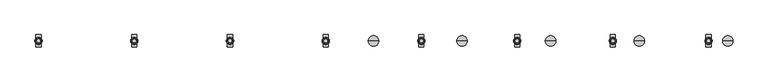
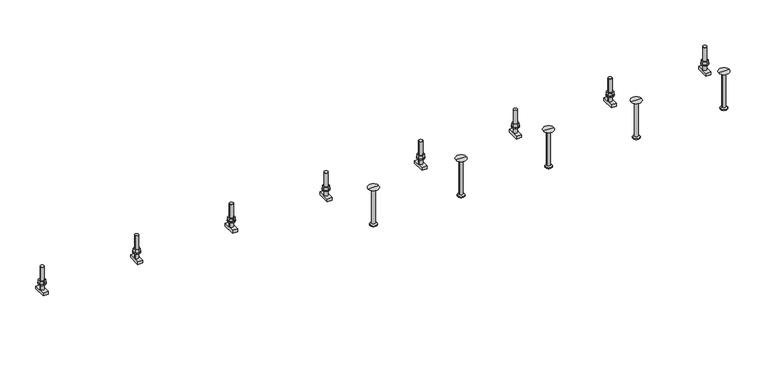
"""IFC4 building model written with IfcOpenShell, lengths in millimetres: fastener geometry, JTA-K JORDAHL® AnchorChannels : JTA-K L=3000 mm."""

from ifc_helpers import new_model, si_unit, point, frame, frame_2d, origin, place, context, project, spatial, polyline, circle_curve, trimmed, segment, composite_curve, outline, extrude, source, transform, mapped, element, save
from ifc_brep_helpers import plane_surface, cylinder_surface, revolved_surface, advanced_brep


def fastener_8fff43ae(model_context):
    return source(origin(), model_context, "Body", "SolidModel", [
        extrude(outline(polyline([(2608.3333333, -10.3923048), (2599.3333333, -5.1961524), (2599.3333333, 5.1961524), (2608.3333333, 10.3923048), (2617.3333333, 5.1961524), (2617.3333333, -5.1961524), (2608.3333333, -10.3923048)]), holes=[composite_curve([segment(trimmed(circle_curve(frame_2d((2608.3333333, 0.0)), 6.0), [point((2602.3333333, 0.0))], [point((2614.3333333, 0.0))], True, "CARTESIAN"), True, "CONTINUOUS"), segment(trimmed(circle_curve(frame_2d((2608.3333333, 0.0)), 6.0), [point((2614.3333333, 0.0))], [point((2602.3333333, 0.0))], True, "CARTESIAN"), True, "CONTINUOUS")], self_intersect=False)]), frame((0.0, 0.0, 17.5), z_axis=(0.0, 0.0, 1.0), x_axis=(1.0, 0.0, 0.0)), (0.0, 0.0, 1.0), 10.8),
        extrude(outline(composite_curve([segment(trimmed(circle_curve(frame_2d((2608.3333333, 0.0)), 12.0), [point((2596.3333333, 0.0))], [point((2620.3333333, 0.0))], False, "CARTESIAN"), True, "CONTINUOUS"), segment(trimmed(circle_curve(frame_2d((2608.3333333, 0.0)), 12.0), [point((2620.3333333, 0.0))], [point((2596.3333333, 0.0))], False, "CARTESIAN"), True, "CONTINUOUS")], self_intersect=False), holes=[composite_curve([segment(trimmed(circle_curve(frame_2d((2608.3333333, 0.0)), 6.5), [point((2601.8333333, 0.0))], [point((2614.8333333, 0.0))], True, "CARTESIAN"), True, "CONTINUOUS"), segment(trimmed(circle_curve(frame_2d((2608.3333333, 0.0)), 6.5), [point((2614.8333333, 0.0))], [point((2601.8333333, 0.0))], True, "CARTESIAN"), True, "CONTINUOUS")], self_intersect=False)]), frame((0.0, 0.0, 15.0), z_axis=(0.0, 0.0, 1.0), x_axis=(1.0, 0.0, 0.0)), (0.0, 0.0, 1.0), 2.5),
        extrude(outline(polyline([(2291.6666667, -10.3923048), (2282.6666667, -5.1961524), (2282.6666667, 5.1961524), (2291.6666667, 10.3923048), (2300.6666667, 5.1961524), (2300.6666667, -5.1961524), (2291.6666667, -10.3923048)]), holes=[composite_curve([segment(trimmed(circle_curve(frame_2d((2291.6666667, 0.0)), 6.0), [point((2285.6666667, 0.0))], [point((2297.6666667, 0.0))], True, "CARTESIAN"), True, "CONTINUOUS"), segment(trimmed(circle_curve(frame_2d((2291.6666667, 0.0)), 6.0), [point((2297.6666667, 0.0))], [point((2285.6666667, 0.0))], True, "CARTESIAN"), True, "CONTINUOUS")], self_intersect=False)]), frame((0.0, 0.0, 17.5), z_axis=(0.0, 0.0, 1.0), x_axis=(1.0, 0.0, 0.0)), (0.0, 0.0, 1.0), 10.8),
        extrude(outline(composite_curve([segment(trimmed(circle_curve(frame_2d((2291.6666667, 0.0)), 12.0), [point((2279.6666667, 0.0))], [point((2303.6666667, 0.0))], False, "CARTESIAN"), True, "CONTINUOUS"), segment(trimmed(circle_curve(frame_2d((2291.6666667, 0.0)), 12.0), [point((2303.6666667, 0.0))], [point((2279.6666667, 0.0))], False, "CARTESIAN"), True, "CONTINUOUS")], self_intersect=False), holes=[composite_curve([segment(trimmed(circle_curve(frame_2d((2291.6666667, 0.0)), 6.5), [point((2285.1666667, 0.0))], [point((2298.1666667, 0.0))], True, "CARTESIAN"), True, "CONTINUOUS"), segment(trimmed(circle_curve(frame_2d((2291.6666667, 0.0)), 6.5), [point((2298.1666667, 0.0))], [point((2285.1666667, 0.0))], True, "CARTESIAN"), True, "CONTINUOUS")], self_intersect=False)]), frame((0.0, 0.0, 15.0), z_axis=(0.0, 0.0, 1.0), x_axis=(1.0, 0.0, 0.0)), (0.0, 0.0, 1.0), 2.5),
        extrude(outline(polyline([(1975.0, -10.3923048), (1966.0, -5.1961524), (1966.0, 5.1961524), (1975.0, 10.3923048), (1984.0, 5.1961524), (1984.0, -5.1961524), (1975.0, -10.3923048)]), holes=[composite_curve([segment(trimmed(circle_curve(frame_2d((1975.0, 0.0)), 6.0), [point((1969.0, 0.0))], [point((1981.0, 0.0))], True, "CARTESIAN"), True, "CONTINUOUS"), segment(trimmed(circle_curve(frame_2d((1975.0, 0.0)), 6.0), [point((1981.0, 0.0))], [point((1969.0, 0.0))], True, "CARTESIAN"), True, "CONTINUOUS")], self_intersect=False)]), frame((0.0, 0.0, 17.5), z_axis=(0.0, 0.0, 1.0), x_axis=(1.0, 0.0, 0.0)), (0.0, 0.0, 1.0), 10.8),
        extrude(outline(composite_curve([segment(trimmed(circle_curve(frame_2d((1975.0, 0.0)), 12.0), [point((1963.0, 0.0))], [point((1987.0, 0.0))], False, "CARTESIAN"), True, "CONTINUOUS"), segment(trimmed(circle_curve(frame_2d((1975.0, 0.0)), 12.0), [point((1987.0, 0.0))], [point((1963.0, 0.0))], False, "CARTESIAN"), True, "CONTINUOUS")], self_intersect=False), holes=[composite_curve([segment(trimmed(circle_curve(frame_2d((1975.0, 0.0)), 6.5), [point((1968.5, 0.0))], [point((1981.5, 0.0))], True, "CARTESIAN"), True, "CONTINUOUS"), segment(trimmed(circle_curve(frame_2d((1975.0, 0.0)), 6.5), [point((1981.5, 0.0))], [point((1968.5, 0.0))], True, "CARTESIAN"), True, "CONTINUOUS")], self_intersect=False)]), frame((0.0, 0.0, 15.0), z_axis=(0.0, 0.0, 1.0), x_axis=(1.0, 0.0, 0.0)), (0.0, 0.0, 1.0), 2.5),
        extrude(outline(polyline([(1658.3333333, -10.3923048), (1649.3333333, -5.1961524), (1649.3333333, 5.1961524), (1658.3333333, 10.3923048), (1667.3333333, 5.1961524), (1667.3333333, -5.1961524), (1658.3333333, -10.3923048)]), holes=[composite_curve([segment(trimmed(circle_curve(frame_2d((1658.3333333, 0.0)), 6.0), [point((1652.3333333, 0.0))], [point((1664.3333333, 0.0))], True, "CARTESIAN"), True, "CONTINUOUS"), segment(trimmed(circle_curve(frame_2d((1658.3333333, 0.0)), 6.0), [point((1664.3333333, 0.0))], [point((1652.3333333, 0.0))], True, "CARTESIAN"), True, "CONTINUOUS")], self_intersect=False)]), frame((0.0, 0.0, 17.5), z_axis=(0.0, 0.0, 1.0), x_axis=(1.0, 0.0, 0.0)), (0.0, 0.0, 1.0), 10.8),
        extrude(outline(composite_curve([segment(trimmed(circle_curve(frame_2d((1658.3333333, 0.0)), 12.0), [point((1646.3333333, 0.0))], [point((1670.3333333, 0.0))], False, "CARTESIAN"), True, "CONTINUOUS"), segment(trimmed(circle_curve(frame_2d((1658.3333333, 0.0)), 12.0), [point((1670.3333333, 0.0))], [point((1646.3333333, 0.0))], False, "CARTESIAN"), True, "CONTINUOUS")], self_intersect=False), holes=[composite_curve([segment(trimmed(circle_curve(frame_2d((1658.3333333, 0.0)), 6.5), [point((1651.8333333, 0.0))], [point((1664.8333333, 0.0))], True, "CARTESIAN"), True, "CONTINUOUS"), segment(trimmed(circle_curve(frame_2d((1658.3333333, 0.0)), 6.5), [point((1664.8333333, 0.0))], [point((1651.8333333, 0.0))], True, "CARTESIAN"), True, "CONTINUOUS")], self_intersect=False)]), frame((0.0, 0.0, 15.0), z_axis=(0.0, 0.0, 1.0), x_axis=(1.0, 0.0, 0.0)), (0.0, 0.0, 1.0), 2.5),
        extrude(outline(polyline([(1341.6666667, -10.3923048), (1332.6666667, -5.1961524), (1332.6666667, 5.1961524), (1341.6666667, 10.3923048), (1350.6666667, 5.1961524), (1350.6666667, -5.1961524), (1341.6666667, -10.3923048)]), holes=[composite_curve([segment(trimmed(circle_curve(frame_2d((1341.6666667, 0.0)), 6.0), [point((1335.6666667, 0.0))], [point((1347.6666667, 0.0))], True, "CARTESIAN"), True, "CONTINUOUS"), segment(trimmed(circle_curve(frame_2d((1341.6666667, 0.0)), 6.0), [point((1347.6666667, 0.0))], [point((1335.6666667, 0.0))], True, "CARTESIAN"), True, "CONTINUOUS")], self_intersect=False)]), frame((0.0, 0.0, 17.5), z_axis=(0.0, 0.0, 1.0), x_axis=(1.0, 0.0, 0.0)), (0.0, 0.0, 1.0), 10.8),
        extrude(outline(composite_curve([segment(trimmed(circle_curve(frame_2d((1341.6666667, 0.0)), 12.0), [point((1329.6666667, 0.0))], [point((1353.6666667, 0.0))], False, "CARTESIAN"), True, "CONTINUOUS"), segment(trimmed(circle_curve(frame_2d((1341.6666667, 0.0)), 12.0), [point((1353.6666667, 0.0))], [point((1329.6666667, 0.0))], False, "CARTESIAN"), True, "CONTINUOUS")], self_intersect=False), holes=[composite_curve([segment(trimmed(circle_curve(frame_2d((1341.6666667, 0.0)), 6.5), [point((1335.1666667, 0.0))], [point((1348.1666667, 0.0))], True, "CARTESIAN"), True, "CONTINUOUS"), segment(trimmed(circle_curve(frame_2d((1341.6666667, 0.0)), 6.5), [point((1348.1666667, 0.0))], [point((1335.1666667, 0.0))], True, "CARTESIAN"), True, "CONTINUOUS")], self_intersect=False)]), frame((0.0, 0.0, 15.0), z_axis=(0.0, 0.0, 1.0), x_axis=(1.0, 0.0, 0.0)), (0.0, 0.0, 1.0), 2.5),
        extrude(outline(polyline([(1025.0, -10.3923048), (1016.0, -5.1961524), (1016.0, 5.1961524), (1025.0, 10.3923048), (1034.0, 5.1961524), (1034.0, -5.1961524), (1025.0, -10.3923048)]), holes=[composite_curve([segment(trimmed(circle_curve(frame_2d((1025.0, 0.0)), 6.0), [point((1019.0, 0.0))], [point((1031.0, 0.0))], True, "CARTESIAN"), True, "CONTINUOUS"), segment(trimmed(circle_curve(frame_2d((1025.0, 0.0)), 6.0), [point((1031.0, 0.0))], [point((1019.0, 0.0))], True, "CARTESIAN"), True, "CONTINUOUS")], self_intersect=False)]), frame((0.0, 0.0, 17.5), z_axis=(0.0, 0.0, 1.0), x_axis=(1.0, 0.0, 0.0)), (0.0, 0.0, 1.0), 10.8),
        extrude(outline(composite_curve([segment(trimmed(circle_curve(frame_2d((1025.0, 0.0)), 12.0), [point((1013.0, 0.0))], [point((1037.0, 0.0))], False, "CARTESIAN"), True, "CONTINUOUS"), segment(trimmed(circle_curve(frame_2d((1025.0, 0.0)), 12.0), [point((1037.0, 0.0))], [point((1013.0, 0.0))], False, "CARTESIAN"), True, "CONTINUOUS")], self_intersect=False), holes=[composite_curve([segment(trimmed(circle_curve(frame_2d((1025.0, 0.0)), 6.5), [point((1018.5, 0.0))], [point((1031.5, 0.0))], True, "CARTESIAN"), True, "CONTINUOUS"), segment(trimmed(circle_curve(frame_2d((1025.0, 0.0)), 6.5), [point((1031.5, 0.0))], [point((1018.5, 0.0))], True, "CARTESIAN"), True, "CONTINUOUS")], self_intersect=False)]), frame((0.0, 0.0, 15.0), z_axis=(0.0, 0.0, 1.0), x_axis=(1.0, 0.0, 0.0)), (0.0, 0.0, 1.0), 2.5),
        extrude(outline(polyline([(708.3333333, -10.3923048), (699.3333333, -5.1961524), (699.3333333, 5.1961524), (708.3333333, 10.3923048), (717.3333333, 5.1961524), (717.3333333, -5.1961524), (708.3333333, -10.3923048)]), holes=[composite_curve([segment(trimmed(circle_curve(frame_2d((708.3333333, 0.0)), 6.0), [point((702.3333333, 0.0))], [point((714.3333333, 0.0))], True, "CARTESIAN"), True, "CONTINUOUS"), segment(trimmed(circle_curve(frame_2d((708.3333333, 0.0)), 6.0), [point((714.3333333, 0.0))], [point((702.3333333, 0.0))], True, "CARTESIAN"), True, "CONTINUOUS")], self_intersect=False)]), frame((0.0, 0.0, 17.5), z_axis=(0.0, 0.0, 1.0), x_axis=(1.0, 0.0, 0.0)), (0.0, 0.0, 1.0), 10.8),
        extrude(outline(composite_curve([segment(trimmed(circle_curve(frame_2d((708.3333333, 0.0)), 12.0), [point((696.3333333, 0.0))], [point((720.3333333, 0.0))], False, "CARTESIAN"), True, "CONTINUOUS"), segment(trimmed(circle_curve(frame_2d((708.3333333, 0.0)), 12.0), [point((720.3333333, 0.0))], [point((696.3333333, 0.0))], False, "CARTESIAN"), True, "CONTINUOUS")], self_intersect=False), holes=[composite_curve([segment(trimmed(circle_curve(frame_2d((708.3333333, 0.0)), 6.5), [point((701.8333333, 0.0))], [point((714.8333333, 0.0))], True, "CARTESIAN"), True, "CONTINUOUS"), segment(trimmed(circle_curve(frame_2d((708.3333333, 0.0)), 6.5), [point((714.8333333, 0.0))], [point((701.8333333, 0.0))], True, "CARTESIAN"), True, "CONTINUOUS")], self_intersect=False)]), frame((0.0, 0.0, 15.0), z_axis=(0.0, 0.0, 1.0), x_axis=(1.0, 0.0, 0.0)), (0.0, 0.0, 1.0), 2.5),
        extrude(outline(polyline([(391.6666667, -10.3923048), (382.6666667, -5.1961524), (382.6666667, 5.1961524), (391.6666667, 10.3923048), (400.6666667, 5.1961524), (400.6666667, -5.1961524), (391.6666667, -10.3923048)]), holes=[composite_curve([segment(trimmed(circle_curve(frame_2d((391.6666667, 0.0)), 6.0), [point((385.6666667, 0.0))], [point((397.6666667, 0.0))], True, "CARTESIAN"), True, "CONTINUOUS"), segment(trimmed(circle_curve(frame_2d((391.6666667, 0.0)), 6.0), [point((397.6666667, 0.0))], [point((385.6666667, 0.0))], True, "CARTESIAN"), True, "CONTINUOUS")], self_intersect=False)]), frame((0.0, 0.0, 17.5), z_axis=(0.0, 0.0, 1.0), x_axis=(1.0, 0.0, 0.0)), (0.0, 0.0, 1.0), 10.8),
        extrude(outline(composite_curve([segment(trimmed(circle_curve(frame_2d((391.6666667, 0.0)), 12.0), [point((379.6666667, 0.0))], [point((403.6666667, 0.0))], False, "CARTESIAN"), True, "CONTINUOUS"), segment(trimmed(circle_curve(frame_2d((391.6666667, 0.0)), 12.0), [point((403.6666667, 0.0))], [point((379.6666667, 0.0))], False, "CARTESIAN"), True, "CONTINUOUS")], self_intersect=False), holes=[composite_curve([segment(trimmed(circle_curve(frame_2d((391.6666667, 0.0)), 6.5), [point((385.1666667, 0.0))], [point((398.1666667, 0.0))], True, "CARTESIAN"), True, "CONTINUOUS"), segment(trimmed(circle_curve(frame_2d((391.6666667, 0.0)), 6.5), [point((398.1666667, 0.0))], [point((385.1666667, 0.0))], True, "CARTESIAN"), True, "CONTINUOUS")], self_intersect=False)]), frame((0.0, 0.0, 15.0), z_axis=(0.0, 0.0, 1.0), x_axis=(1.0, 0.0, 0.0)), (0.0, 0.0, 1.0), 2.5),
        advanced_brep(
        [(2616.8333333, -20.7, -4.5), (2616.8333333, -20.7, -14.5), (2616.8333333, 20.7, -14.5), (2616.8333333, 20.7, -4.5), (2599.8333333, -20.7, -4.5), (2599.8333333, 20.7, -4.5), (2599.8333333, 20.7, -14.5), (2599.8333333, -20.7, -14.5), (2614.3333333, 0.0, -4.5), (2602.3333333, 0.0, -4.5), (2602.3333333, 0.0, 75.5), (2614.3333333, 0.0, 75.5)],
        [
            (0, 1),
            (1, 2),
            (2, 3),
            (3, 0),
            (4, 5),
            (5, 6),
            (6, 7),
            (7, 4),
            (3, 5),
            (4, 0),
            (8, 9, circle_curve(frame((2608.3333333, 0.0, -4.5), z_axis=(0.0, 0.0, -1.0), x_axis=(1.0, 0.0, 0.0)), 6.0)),
            (9, 8, circle_curve(frame((2608.3333333, 0.0, -4.5), z_axis=(0.0, 0.0, -1.0), x_axis=(1.0, 0.0, 0.0)), 6.0)),
            (2, 6),
            (1, 7),
            (10, 11, circle_curve(frame((2608.3333333, 0.0, 75.5), z_axis=(0.0, 0.0, 1.0), x_axis=(1.0, 0.0, 0.0)), 6.0)),
            (11, 10, circle_curve(frame((2608.3333333, 0.0, 75.5), z_axis=(0.0, 0.0, 1.0), x_axis=(1.0, 0.0, 0.0)), 6.0)),
            (11, 8),
            (9, 10),
        ],
        [
            plane_surface(frame((2616.8333333, 20.7, -4.5), z_axis=(1.0, 0.0, 0.0), x_axis=(0.0, 1.0, 0.0))),
            plane_surface(frame((2599.8333333, 20.7, -4.5), z_axis=(-1.0, 0.0, 0.0), x_axis=(0.0, -1.0, 0.0))),
            plane_surface(frame((2616.8333333, -20.7, -4.5), z_axis=(0.0, 0.0, 1.0), x_axis=(-1.0, 0.0, 0.0))),
            plane_surface(frame((2616.8333333, 20.7, -4.5), z_axis=(0.0, 1.0, 0.0), x_axis=(-1.0, 0.0, 0.0))),
            plane_surface(frame((2616.8333333, 20.7, -14.5), z_axis=(0.0, 0.0, -1.0), x_axis=(-1.0, 0.0, 0.0))),
            plane_surface(frame((2616.8333333, -20.7, -14.5), z_axis=(0.0, -1.0, 0.0), x_axis=(-1.0, 0.0, 0.0))),
            plane_surface(frame((2614.3333333, 0.0, 75.5), z_axis=(0.0, 0.0, 1.0), x_axis=(0.0, -1.0, 0.0))),
            cylinder_surface(frame((2608.3333333, 0.0, -4.5), z_axis=(0.0, 0.0, 1.0), x_axis=(1.0, 0.0, 0.0)), 6.0),
        ],
        [
            (0, [[1, 2, 3, 4]]),
            (1, [[5, 6, 7, 8]]),
            (2, [[9, -5, 10, -4], [11, 12]]),
            (3, [[13, -6, -9, -3]]),
            (4, [[14, -7, -13, -2]]),
            (5, [[-10, -8, -14, -1]]),
            (6, [[15, 16]]),
            (7, [[17, -12, 18, -16]]),
            (7, [[-18, -11, -17, -15]]),
        ],
    ),
        advanced_brep(
        [(2300.1666667, -20.7, -4.5), (2300.1666667, -20.7, -14.5), (2300.1666667, 20.7, -14.5), (2300.1666667, 20.7, -4.5), (2283.1666667, -20.7, -4.5), (2283.1666667, 20.7, -4.5), (2283.1666667, 20.7, -14.5), (2283.1666667, -20.7, -14.5), (2297.6666667, 0.0, -4.5), (2285.6666667, 0.0, -4.5), (2285.6666667, 0.0, 75.5), (2297.6666667, 0.0, 75.5)],
        [
            (0, 1),
            (1, 2),
            (2, 3),
            (3, 0),
            (4, 5),
            (5, 6),
            (6, 7),
            (7, 4),
            (3, 5),
            (4, 0),
            (8, 9, circle_curve(frame((2291.6666667, 0.0, -4.5), z_axis=(0.0, 0.0, -1.0), x_axis=(1.0, 0.0, 0.0)), 6.0)),
            (9, 8, circle_curve(frame((2291.6666667, 0.0, -4.5), z_axis=(0.0, 0.0, -1.0), x_axis=(1.0, 0.0, 0.0)), 6.0)),
            (2, 6),
            (1, 7),
            (10, 11, circle_curve(frame((2291.6666667, 0.0, 75.5), z_axis=(0.0, 0.0, 1.0), x_axis=(1.0, 0.0, 0.0)), 6.0)),
            (11, 10, circle_curve(frame((2291.6666667, 0.0, 75.5), z_axis=(0.0, 0.0, 1.0), x_axis=(1.0, 0.0, 0.0)), 6.0)),
            (11, 8),
            (9, 10),
        ],
        [
            plane_surface(frame((2300.1666667, 20.7, -4.5), z_axis=(1.0, 0.0, 0.0), x_axis=(0.0, 1.0, 0.0))),
            plane_surface(frame((2283.1666667, 20.7, -4.5), z_axis=(-1.0, 0.0, 0.0), x_axis=(0.0, -1.0, 0.0))),
            plane_surface(frame((2300.1666667, -20.7, -4.5), z_axis=(0.0, 0.0, 1.0), x_axis=(-1.0, 0.0, 0.0))),
            plane_surface(frame((2300.1666667, 20.7, -4.5), z_axis=(0.0, 1.0, 0.0), x_axis=(-1.0, 0.0, 0.0))),
            plane_surface(frame((2300.1666667, 20.7, -14.5), z_axis=(0.0, 0.0, -1.0), x_axis=(-1.0, 0.0, 0.0))),
            plane_surface(frame((2300.1666667, -20.7, -14.5), z_axis=(0.0, -1.0, 0.0), x_axis=(-1.0, 0.0, 0.0))),
            plane_surface(frame((2297.6666667, 0.0, 75.5), z_axis=(0.0, 0.0, 1.0), x_axis=(0.0, -1.0, 0.0))),
            cylinder_surface(frame((2291.6666667, 0.0, -4.5), z_axis=(0.0, 0.0, 1.0), x_axis=(1.0, 0.0, 0.0)), 6.0),
        ],
        [
            (0, [[1, 2, 3, 4]]),
            (1, [[5, 6, 7, 8]]),
            (2, [[9, -5, 10, -4], [11, 12]]),
            (3, [[13, -6, -9, -3]]),
            (4, [[14, -7, -13, -2]]),
            (5, [[-10, -8, -14, -1]]),
            (6, [[15, 16]]),
            (7, [[17, -12, 18, -16]]),
            (7, [[-18, -11, -17, -15]]),
        ],
    ),
        advanced_brep(
        [(1983.5, -20.7, -4.5), (1983.5, -20.7, -14.5), (1983.5, 20.7, -14.5), (1983.5, 20.7, -4.5), (1966.5, -20.7, -4.5), (1966.5, 20.7, -4.5), (1966.5, 20.7, -14.5), (1966.5, -20.7, -14.5), (1981.0, 0.0, -4.5), (1969.0, 0.0, -4.5), (1969.0, 0.0, 75.5), (1981.0, 0.0, 75.5)],
        [
            (0, 1),
            (1, 2),
            (2, 3),
            (3, 0),
            (4, 5),
            (5, 6),
            (6, 7),
            (7, 4),
            (3, 5),
            (4, 0),
            (8, 9, circle_curve(frame((1975.0, 0.0, -4.5), z_axis=(0.0, 0.0, -1.0), x_axis=(1.0, 0.0, 0.0)), 6.0)),
            (9, 8, circle_curve(frame((1975.0, 0.0, -4.5), z_axis=(0.0, 0.0, -1.0), x_axis=(1.0, 0.0, 0.0)), 6.0)),
            (2, 6),
            (1, 7),
            (10, 11, circle_curve(frame((1975.0, 0.0, 75.5), z_axis=(0.0, 0.0, 1.0), x_axis=(1.0, 0.0, 0.0)), 6.0)),
            (11, 10, circle_curve(frame((1975.0, 0.0, 75.5), z_axis=(0.0, 0.0, 1.0), x_axis=(1.0, 0.0, 0.0)), 6.0)),
            (11, 8),
            (9, 10),
        ],
        [
            plane_surface(frame((1983.5, 20.7, -4.5), z_axis=(1.0, 0.0, 0.0), x_axis=(0.0, 1.0, 0.0))),
            plane_surface(frame((1966.5, 20.7, -4.5), z_axis=(-1.0, 0.0, 0.0), x_axis=(0.0, -1.0, 0.0))),
            plane_surface(frame((1983.5, -20.7, -4.5), z_axis=(0.0, 0.0, 1.0), x_axis=(-1.0, 0.0, 0.0))),
            plane_surface(frame((1983.5, 20.7, -4.5), z_axis=(0.0, 1.0, 0.0), x_axis=(-1.0, 0.0, 0.0))),
            plane_surface(frame((1983.5, 20.7, -14.5), z_axis=(0.0, 0.0, -1.0), x_axis=(-1.0, 0.0, 0.0))),
            plane_surface(frame((1983.5, -20.7, -14.5), z_axis=(0.0, -1.0, 0.0), x_axis=(-1.0, 0.0, 0.0))),
            plane_surface(frame((1981.0, 0.0, 75.5), z_axis=(0.0, 0.0, 1.0), x_axis=(0.0, -1.0, 0.0))),
            cylinder_surface(frame((1975.0, 0.0, -4.5), z_axis=(0.0, 0.0, 1.0), x_axis=(1.0, 0.0, 0.0)), 6.0),
        ],
        [
            (0, [[1, 2, 3, 4]]),
            (1, [[5, 6, 7, 8]]),
            (2, [[9, -5, 10, -4], [11, 12]]),
            (3, [[13, -6, -9, -3]]),
            (4, [[14, -7, -13, -2]]),
            (5, [[-10, -8, -14, -1]]),
            (6, [[15, 16]]),
            (7, [[17, -12, 18, -16]]),
            (7, [[-18, -11, -17, -15]]),
        ],
    ),
        advanced_brep(
        [(1666.8333333, -20.7, -4.5), (1666.8333333, -20.7, -14.5), (1666.8333333, 20.7, -14.5), (1666.8333333, 20.7, -4.5), (1649.8333333, -20.7, -4.5), (1649.8333333, 20.7, -4.5), (1649.8333333, 20.7, -14.5), (1649.8333333, -20.7, -14.5), (1664.3333333, 0.0, -4.5), (1652.3333333, 0.0, -4.5), (1652.3333333, 0.0, 75.5), (1664.3333333, 0.0, 75.5)],
        [
            (0, 1),
            (1, 2),
            (2, 3),
            (3, 0),
            (4, 5),
            (5, 6),
            (6, 7),
            (7, 4),
            (3, 5),
            (4, 0),
            (8, 9, circle_curve(frame((1658.3333333, 0.0, -4.5), z_axis=(0.0, 0.0, -1.0), x_axis=(1.0, 0.0, 0.0)), 6.0)),
            (9, 8, circle_curve(frame((1658.3333333, 0.0, -4.5), z_axis=(0.0, 0.0, -1.0), x_axis=(1.0, 0.0, 0.0)), 6.0)),
            (2, 6),
            (1, 7),
            (10, 11, circle_curve(frame((1658.3333333, 0.0, 75.5), z_axis=(0.0, 0.0, 1.0), x_axis=(1.0, 0.0, 0.0)), 6.0)),
            (11, 10, circle_curve(frame((1658.3333333, 0.0, 75.5), z_axis=(0.0, 0.0, 1.0), x_axis=(1.0, 0.0, 0.0)), 6.0)),
            (11, 8),
            (9, 10),
        ],
        [
            plane_surface(frame((1666.8333333, 20.7, -4.5), z_axis=(1.0, 0.0, 0.0), x_axis=(0.0, 1.0, 0.0))),
            plane_surface(frame((1649.8333333, 20.7, -4.5), z_axis=(-1.0, 0.0, 0.0), x_axis=(0.0, -1.0, 0.0))),
            plane_surface(frame((1666.8333333, -20.7, -4.5), z_axis=(0.0, 0.0, 1.0), x_axis=(-1.0, 0.0, 0.0))),
            plane_surface(frame((1666.8333333, 20.7, -4.5), z_axis=(0.0, 1.0, 0.0), x_axis=(-1.0, 0.0, 0.0))),
            plane_surface(frame((1666.8333333, 20.7, -14.5), z_axis=(0.0, 0.0, -1.0), x_axis=(-1.0, 0.0, 0.0))),
            plane_surface(frame((1666.8333333, -20.7, -14.5), z_axis=(0.0, -1.0, 0.0), x_axis=(-1.0, 0.0, 0.0))),
            plane_surface(frame((1664.3333333, 0.0, 75.5), z_axis=(0.0, 0.0, 1.0), x_axis=(0.0, -1.0, 0.0))),
            cylinder_surface(frame((1658.3333333, 0.0, -4.5), z_axis=(0.0, 0.0, 1.0), x_axis=(1.0, 0.0, 0.0)), 6.0),
        ],
        [
            (0, [[1, 2, 3, 4]]),
            (1, [[5, 6, 7, 8]]),
            (2, [[9, -5, 10, -4], [11, 12]]),
            (3, [[13, -6, -9, -3]]),
            (4, [[14, -7, -13, -2]]),
            (5, [[-10, -8, -14, -1]]),
            (6, [[15, 16]]),
            (7, [[17, -12, 18, -16]]),
            (7, [[-18, -11, -17, -15]]),
        ],
    ),
        advanced_brep(
        [(1350.1666667, -20.7, -4.5), (1350.1666667, -20.7, -14.5), (1350.1666667, 20.7, -14.5), (1350.1666667, 20.7, -4.5), (1333.1666667, -20.7, -4.5), (1333.1666667, 20.7, -4.5), (1333.1666667, 20.7, -14.5), (1333.1666667, -20.7, -14.5), (1347.6666667, 0.0, -4.5), (1335.6666667, 0.0, -4.5), (1335.6666667, 0.0, 75.5), (1347.6666667, 0.0, 75.5)],
        [
            (0, 1),
            (1, 2),
            (2, 3),
            (3, 0),
            (4, 5),
            (5, 6),
            (6, 7),
            (7, 4),
            (3, 5),
            (4, 0),
            (8, 9, circle_curve(frame((1341.6666667, 0.0, -4.5), z_axis=(0.0, 0.0, -1.0), x_axis=(1.0, 0.0, 0.0)), 6.0)),
            (9, 8, circle_curve(frame((1341.6666667, 0.0, -4.5), z_axis=(0.0, 0.0, -1.0), x_axis=(1.0, 0.0, 0.0)), 6.0)),
            (2, 6),
            (1, 7),
            (10, 11, circle_curve(frame((1341.6666667, 0.0, 75.5), z_axis=(0.0, 0.0, 1.0), x_axis=(1.0, 0.0, 0.0)), 6.0)),
            (11, 10, circle_curve(frame((1341.6666667, 0.0, 75.5), z_axis=(0.0, 0.0, 1.0), x_axis=(1.0, 0.0, 0.0)), 6.0)),
            (11, 8),
            (9, 10),
        ],
        [
            plane_surface(frame((1350.1666667, 20.7, -4.5), z_axis=(1.0, 0.0, 0.0), x_axis=(0.0, 1.0, 0.0))),
            plane_surface(frame((1333.1666667, 20.7, -4.5), z_axis=(-1.0, 0.0, 0.0), x_axis=(0.0, -1.0, 0.0))),
            plane_surface(frame((1350.1666667, -20.7, -4.5), z_axis=(0.0, 0.0, 1.0), x_axis=(-1.0, 0.0, 0.0))),
            plane_surface(frame((1350.1666667, 20.7, -4.5), z_axis=(0.0, 1.0, 0.0), x_axis=(-1.0, 0.0, 0.0))),
            plane_surface(frame((1350.1666667, 20.7, -14.5), z_axis=(0.0, 0.0, -1.0), x_axis=(-1.0, 0.0, 0.0))),
            plane_surface(frame((1350.1666667, -20.7, -14.5), z_axis=(0.0, -1.0, 0.0), x_axis=(-1.0, 0.0, 0.0))),
            plane_surface(frame((1347.6666667, 0.0, 75.5), z_axis=(0.0, 0.0, 1.0), x_axis=(0.0, -1.0, 0.0))),
            cylinder_surface(frame((1341.6666667, 0.0, -4.5), z_axis=(0.0, 0.0, 1.0), x_axis=(1.0, 0.0, 0.0)), 6.0),
        ],
        [
            (0, [[1, 2, 3, 4]]),
            (1, [[5, 6, 7, 8]]),
            (2, [[9, -5, 10, -4], [11, 12]]),
            (3, [[13, -6, -9, -3]]),
            (4, [[14, -7, -13, -2]]),
            (5, [[-10, -8, -14, -1]]),
            (6, [[15, 16]]),
            (7, [[17, -12, 18, -16]]),
            (7, [[-18, -11, -17, -15]]),
        ],
    ),
        advanced_brep(
        [(1033.5, -20.7, -4.5), (1033.5, -20.7, -14.5), (1033.5, 20.7, -14.5), (1033.5, 20.7, -4.5), (1016.5, -20.7, -4.5), (1016.5, 20.7, -4.5), (1016.5, 20.7, -14.5), (1016.5, -20.7, -14.5), (1031.0, 0.0, -4.5), (1019.0, 0.0, -4.5), (1019.0, 0.0, 75.5), (1031.0, 0.0, 75.5)],
        [
            (0, 1),
            (1, 2),
            (2, 3),
            (3, 0),
            (4, 5),
            (5, 6),
            (6, 7),
            (7, 4),
            (3, 5),
            (4, 0),
            (8, 9, circle_curve(frame((1025.0, 0.0, -4.5), z_axis=(0.0, 0.0, -1.0), x_axis=(1.0, 0.0, 0.0)), 6.0)),
            (9, 8, circle_curve(frame((1025.0, 0.0, -4.5), z_axis=(0.0, 0.0, -1.0), x_axis=(1.0, 0.0, 0.0)), 6.0)),
            (2, 6),
            (1, 7),
            (10, 11, circle_curve(frame((1025.0, 0.0, 75.5), z_axis=(0.0, 0.0, 1.0), x_axis=(1.0, 0.0, 0.0)), 6.0)),
            (11, 10, circle_curve(frame((1025.0, 0.0, 75.5), z_axis=(0.0, 0.0, 1.0), x_axis=(1.0, 0.0, 0.0)), 6.0)),
            (11, 8),
            (9, 10),
        ],
        [
            plane_surface(frame((1033.5, 20.7, -4.5), z_axis=(1.0, 0.0, 0.0), x_axis=(0.0, 1.0, 0.0))),
            plane_surface(frame((1016.5, 20.7, -4.5), z_axis=(-1.0, 0.0, 0.0), x_axis=(0.0, -1.0, 0.0))),
            plane_surface(frame((1033.5, -20.7, -4.5), z_axis=(0.0, 0.0, 1.0), x_axis=(-1.0, 0.0, 0.0))),
            plane_surface(frame((1033.5, 20.7, -4.5), z_axis=(0.0, 1.0, 0.0), x_axis=(-1.0, 0.0, 0.0))),
            plane_surface(frame((1033.5, 20.7, -14.5), z_axis=(0.0, 0.0, -1.0), x_axis=(-1.0, 0.0, 0.0))),
            plane_surface(frame((1033.5, -20.7, -14.5), z_axis=(0.0, -1.0, 0.0), x_axis=(-1.0, 0.0, 0.0))),
            plane_surface(frame((1031.0, 0.0, 75.5), z_axis=(0.0, 0.0, 1.0), x_axis=(0.0, -1.0, 0.0))),
            cylinder_surface(frame((1025.0, 0.0, -4.5), z_axis=(0.0, 0.0, 1.0), x_axis=(1.0, 0.0, 0.0)), 6.0),
        ],
        [
            (0, [[1, 2, 3, 4]]),
            (1, [[5, 6, 7, 8]]),
            (2, [[9, -5, 10, -4], [11, 12]]),
            (3, [[13, -6, -9, -3]]),
            (4, [[14, -7, -13, -2]]),
            (5, [[-10, -8, -14, -1]]),
            (6, [[15, 16]]),
            (7, [[17, -12, 18, -16]]),
            (7, [[-18, -11, -17, -15]]),
        ],
    ),
        advanced_brep(
        [(716.8333333, -20.7, -4.5), (716.8333333, -20.7, -14.5), (716.8333333, 20.7, -14.5), (716.8333333, 20.7, -4.5), (699.8333333, -20.7, -4.5), (699.8333333, 20.7, -4.5), (699.8333333, 20.7, -14.5), (699.8333333, -20.7, -14.5), (714.3333333, 0.0, -4.5), (702.3333333, 0.0, -4.5), (702.3333333, 0.0, 75.5), (714.3333333, 0.0, 75.5)],
        [
            (0, 1),
            (1, 2),
            (2, 3),
            (3, 0),
            (4, 5),
            (5, 6),
            (6, 7),
            (7, 4),
            (3, 5),
            (4, 0),
            (8, 9, circle_curve(frame((708.3333333, 0.0, -4.5), z_axis=(0.0, 0.0, -1.0), x_axis=(1.0, 0.0, 0.0)), 6.0)),
            (9, 8, circle_curve(frame((708.3333333, 0.0, -4.5), z_axis=(0.0, 0.0, -1.0), x_axis=(1.0, 0.0, 0.0)), 6.0)),
            (2, 6),
            (1, 7),
            (10, 11, circle_curve(frame((708.3333333, 0.0, 75.5), z_axis=(0.0, 0.0, 1.0), x_axis=(1.0, 0.0, 0.0)), 6.0)),
            (11, 10, circle_curve(frame((708.3333333, 0.0, 75.5), z_axis=(0.0, 0.0, 1.0), x_axis=(1.0, 0.0, 0.0)), 6.0)),
            (11, 8),
            (9, 10),
        ],
        [
            plane_surface(frame((716.8333333, 20.7, -4.5), z_axis=(1.0, 0.0, 0.0), x_axis=(0.0, 1.0, 0.0))),
            plane_surface(frame((699.8333333, 20.7, -4.5), z_axis=(-1.0, 0.0, 0.0), x_axis=(0.0, -1.0, 0.0))),
            plane_surface(frame((716.8333333, -20.7, -4.5), z_axis=(0.0, 0.0, 1.0), x_axis=(-1.0, 0.0, 0.0))),
            plane_surface(frame((716.8333333, 20.7, -4.5), z_axis=(0.0, 1.0, 0.0), x_axis=(-1.0, 0.0, 0.0))),
            plane_surface(frame((716.8333333, 20.7, -14.5), z_axis=(0.0, 0.0, -1.0), x_axis=(-1.0, 0.0, 0.0))),
            plane_surface(frame((716.8333333, -20.7, -14.5), z_axis=(0.0, -1.0, 0.0), x_axis=(-1.0, 0.0, 0.0))),
            plane_surface(frame((714.3333333, 0.0, 75.5), z_axis=(0.0, 0.0, 1.0), x_axis=(0.0, -1.0, 0.0))),
            cylinder_surface(frame((708.3333333, 0.0, -4.5), z_axis=(0.0, 0.0, 1.0), x_axis=(1.0, 0.0, 0.0)), 6.0),
        ],
        [
            (0, [[1, 2, 3, 4]]),
            (1, [[5, 6, 7, 8]]),
            (2, [[9, -5, 10, -4], [11, 12]]),
            (3, [[13, -6, -9, -3]]),
            (4, [[14, -7, -13, -2]]),
            (5, [[-10, -8, -14, -1]]),
            (6, [[15, 16]]),
            (7, [[17, -12, 18, -16]]),
            (7, [[-18, -11, -17, -15]]),
        ],
    ),
        advanced_brep(
        [(400.1666667, -20.7, -4.5), (400.1666667, -20.7, -14.5), (400.1666667, 20.7, -14.5), (400.1666667, 20.7, -4.5), (383.1666667, -20.7, -4.5), (383.1666667, 20.7, -4.5), (383.1666667, 20.7, -14.5), (383.1666667, -20.7, -14.5), (397.6666667, 0.0, -4.5), (385.6666667, 0.0, -4.5), (385.6666667, 0.0, 75.5), (397.6666667, 0.0, 75.5)],
        [
            (0, 1),
            (1, 2),
            (2, 3),
            (3, 0),
            (4, 5),
            (5, 6),
            (6, 7),
            (7, 4),
            (3, 5),
            (4, 0),
            (8, 9, circle_curve(frame((391.6666667, 0.0, -4.5), z_axis=(0.0, 0.0, -1.0), x_axis=(1.0, 0.0, 0.0)), 6.0)),
            (9, 8, circle_curve(frame((391.6666667, 0.0, -4.5), z_axis=(0.0, 0.0, -1.0), x_axis=(1.0, 0.0, 0.0)), 6.0)),
            (2, 6),
            (1, 7),
            (10, 11, circle_curve(frame((391.6666667, 0.0, 75.5), z_axis=(0.0, 0.0, 1.0), x_axis=(1.0, 0.0, 0.0)), 6.0)),
            (11, 10, circle_curve(frame((391.6666667, 0.0, 75.5), z_axis=(0.0, 0.0, 1.0), x_axis=(1.0, 0.0, 0.0)), 6.0)),
            (11, 8),
            (9, 10),
        ],
        [
            plane_surface(frame((400.1666667, 20.7, -4.5), z_axis=(1.0, 0.0, 0.0), x_axis=(0.0, 1.0, 0.0))),
            plane_surface(frame((383.1666667, 20.7, -4.5), z_axis=(-1.0, 0.0, 0.0), x_axis=(0.0, -1.0, 0.0))),
            plane_surface(frame((400.1666667, -20.7, -4.5), z_axis=(0.0, 0.0, 1.0), x_axis=(-1.0, 0.0, 0.0))),
            plane_surface(frame((400.1666667, 20.7, -4.5), z_axis=(0.0, 1.0, 0.0), x_axis=(-1.0, 0.0, 0.0))),
            plane_surface(frame((400.1666667, 20.7, -14.5), z_axis=(0.0, 0.0, -1.0), x_axis=(-1.0, 0.0, 0.0))),
            plane_surface(frame((400.1666667, -20.7, -14.5), z_axis=(0.0, -1.0, 0.0), x_axis=(-1.0, 0.0, 0.0))),
            plane_surface(frame((397.6666667, 0.0, 75.5), z_axis=(0.0, 0.0, 1.0), x_axis=(0.0, -1.0, 0.0))),
            cylinder_surface(frame((391.6666667, 0.0, -4.5), z_axis=(0.0, 0.0, 1.0), x_axis=(1.0, 0.0, 0.0)), 6.0),
        ],
        [
            (0, [[1, 2, 3, 4]]),
            (1, [[5, 6, 7, 8]]),
            (2, [[9, -5, 10, -4], [11, 12]]),
            (3, [[13, -6, -9, -3]]),
            (4, [[14, -7, -13, -2]]),
            (5, [[-10, -8, -14, -1]]),
            (6, [[15, 16]]),
            (7, [[17, -12, 18, -16]]),
            (7, [[-18, -11, -17, -15]]),
        ],
    ),
        advanced_brep(
        [(2672.0, 0.0, -34.0), (2654.5, 0.0, -34.0), (2689.5, 0.0, -34.0), (2660.5, 0.0, -165.0), (2672.0, 0.0, -165.0), (2683.5, 0.0, -165.0), (2660.5, 0.0, -163.0), (2683.5, 0.0, -163.0), (2666.2, 0.0, -159.7091035), (2677.8, 0.0, -159.7091035), (2666.2, 0.0, -37.0), (2677.8, 0.0, -37.0)],
        [
            (0, 1),
            (1, 2, circle_curve(frame((2672.0, 0.0, -34.0), z_axis=(0.0, 0.0, 1.0), x_axis=(1.0, 0.0, 0.0)), 17.5)),
            (2, 0),
            (2, 1, circle_curve(frame((2672.0, 0.0, -34.0), z_axis=(0.0, 0.0, 1.0), x_axis=(1.0, 0.0, 0.0)), 17.5)),
            (3, 4),
            (4, 5),
            (5, 3, circle_curve(frame((2672.0, 0.0, -165.0), z_axis=(0.0, 0.0, -1.0), x_axis=(1.0, 0.0, 0.0)), 11.5)),
            (3, 5, circle_curve(frame((2672.0, 0.0, -165.0), z_axis=(0.0, 0.0, -1.0), x_axis=(1.0, 0.0, 0.0)), 11.5)),
            (6, 3),
            (5, 7),
            (7, 6, circle_curve(frame((2672.0, 0.0, -163.0), z_axis=(0.0, 0.0, -1.0), x_axis=(1.0, 0.0, 0.0)), 11.5)),
            (6, 7, circle_curve(frame((2672.0, 0.0, -163.0), z_axis=(0.0, 0.0, -1.0), x_axis=(1.0, 0.0, 0.0)), 11.5)),
            (8, 6),
            (7, 9),
            (9, 8, circle_curve(frame((2672.0, 0.0, -159.7091035), z_axis=(0.0, 0.0, -1.0), x_axis=(1.0, 0.0, 0.0)), 5.8)),
            (8, 9, circle_curve(frame((2672.0, 0.0, -159.7091035), z_axis=(0.0, 0.0, -1.0), x_axis=(1.0, 0.0, 0.0)), 5.8)),
            (10, 8),
            (9, 11),
            (11, 10, circle_curve(frame((2672.0, 0.0, -37.0), z_axis=(0.0, 0.0, -1.0), x_axis=(1.0, 0.0, 0.0)), 5.8)),
            (10, 11, circle_curve(frame((2672.0, 0.0, -37.0), z_axis=(0.0, 0.0, -1.0), x_axis=(1.0, 0.0, 0.0)), 5.8)),
            (1, 10),
            (11, 2),
        ],
        [
            plane_surface(frame((2672.0, 0.0, -34.0), z_axis=(0.0, 0.0, 1.0), x_axis=(1.0, 0.0, 0.0))),
            plane_surface(frame((2672.0, 0.0, -165.0), z_axis=(0.0, 0.0, -1.0), x_axis=(1.0, 0.0, 0.0))),
            cylinder_surface(frame((2672.0, 0.0, 2345.3150031), z_axis=(0.0, 0.0, 1.0), x_axis=(1.0, 0.0, 0.0)), 11.5),
            revolved_surface(polyline([(2683.5, 0.0, -163.0), (2677.8, 0.0, -159.7091035)]), (2672.0, 0.0, 2345.3150031), (0.0, 0.0, 1.0)),
            cylinder_surface(frame((2672.0, 0.0, 2345.3150031), z_axis=(0.0, 0.0, 1.0), x_axis=(1.0, 0.0, 0.0)), 5.8),
            revolved_surface(polyline([(2677.8, 0.0, -37.0), (2689.5, 0.0, -34.0)]), (2672.0, 0.0, 2345.3150031), (0.0, 0.0, 1.0)),
        ],
        [
            (0, [[1, 2, 3]]),
            (0, [[-3, 4, -1]]),
            (1, [[5, 6, 7]]),
            (1, [[-6, -5, 8]]),
            (2, [[9, -7, 10, 11]]),
            (2, [[-10, -8, -9, 12]]),
            (3, [[13, -11, 14, 15]]),
            (3, [[-14, -12, -13, 16]]),
            (4, [[17, -15, 18, 19]]),
            (4, [[-18, -16, -17, 20]]),
            (5, [[21, -19, 22, -2]]),
            (5, [[-22, -20, -21, -4]]),
        ],
    ),
        advanced_brep(
        [(2379.0, 0.0, -34.0), (2361.5, 0.0, -34.0), (2396.5, 0.0, -34.0), (2367.5, 0.0, -165.0), (2379.0, 0.0, -165.0), (2390.5, 0.0, -165.0), (2367.5, 0.0, -163.0), (2390.5, 0.0, -163.0), (2373.2, 0.0, -159.7091035), (2384.8, 0.0, -159.7091035), (2373.2, 0.0, -37.0), (2384.8, 0.0, -37.0)],
        [
            (0, 1),
            (1, 2, circle_curve(frame((2379.0, 0.0, -34.0), z_axis=(0.0, 0.0, 1.0), x_axis=(1.0, 0.0, 0.0)), 17.5)),
            (2, 0),
            (2, 1, circle_curve(frame((2379.0, 0.0, -34.0), z_axis=(0.0, 0.0, 1.0), x_axis=(1.0, 0.0, 0.0)), 17.5)),
            (3, 4),
            (4, 5),
            (5, 3, circle_curve(frame((2379.0, 0.0, -165.0), z_axis=(0.0, 0.0, -1.0), x_axis=(1.0, 0.0, 0.0)), 11.5)),
            (3, 5, circle_curve(frame((2379.0, 0.0, -165.0), z_axis=(0.0, 0.0, -1.0), x_axis=(1.0, 0.0, 0.0)), 11.5)),
            (6, 3),
            (5, 7),
            (7, 6, circle_curve(frame((2379.0, 0.0, -163.0), z_axis=(0.0, 0.0, -1.0), x_axis=(1.0, 0.0, 0.0)), 11.5)),
            (6, 7, circle_curve(frame((2379.0, 0.0, -163.0), z_axis=(0.0, 0.0, -1.0), x_axis=(1.0, 0.0, 0.0)), 11.5)),
            (8, 6),
            (7, 9),
            (9, 8, circle_curve(frame((2379.0, 0.0, -159.7091035), z_axis=(0.0, 0.0, -1.0), x_axis=(1.0, 0.0, 0.0)), 5.8)),
            (8, 9, circle_curve(frame((2379.0, 0.0, -159.7091035), z_axis=(0.0, 0.0, -1.0), x_axis=(1.0, 0.0, 0.0)), 5.8)),
            (10, 8),
            (9, 11),
            (11, 10, circle_curve(frame((2379.0, 0.0, -37.0), z_axis=(0.0, 0.0, -1.0), x_axis=(1.0, 0.0, 0.0)), 5.8)),
            (10, 11, circle_curve(frame((2379.0, 0.0, -37.0), z_axis=(0.0, 0.0, -1.0), x_axis=(1.0, 0.0, 0.0)), 5.8)),
            (1, 10),
            (11, 2),
        ],
        [
            plane_surface(frame((2379.0, 0.0, -34.0), z_axis=(0.0, 0.0, 1.0), x_axis=(1.0, 0.0, 0.0))),
            plane_surface(frame((2379.0, 0.0, -165.0), z_axis=(0.0, 0.0, -1.0), x_axis=(1.0, 0.0, 0.0))),
            cylinder_surface(frame((2379.0, 0.0, 2345.3150031), z_axis=(0.0, 0.0, 1.0), x_axis=(1.0, 0.0, 0.0)), 11.5),
            revolved_surface(polyline([(2390.5, 0.0, -163.0), (2384.8, 0.0, -159.7091035)]), (2379.0, 0.0, 2345.3150031), (0.0, 0.0, 1.0)),
            cylinder_surface(frame((2379.0, 0.0, 2345.3150031), z_axis=(0.0, 0.0, 1.0), x_axis=(1.0, 0.0, 0.0)), 5.8),
            revolved_surface(polyline([(2384.8, 0.0, -37.0), (2396.5, 0.0, -34.0)]), (2379.0, 0.0, 2345.3150031), (0.0, 0.0, 1.0)),
        ],
        [
            (0, [[1, 2, 3]]),
            (0, [[-3, 4, -1]]),
            (1, [[5, 6, 7]]),
            (1, [[-6, -5, 8]]),
            (2, [[9, -7, 10, 11]]),
            (2, [[-10, -8, -9, 12]]),
            (3, [[13, -11, 14, 15]]),
            (3, [[-14, -12, -13, 16]]),
            (4, [[17, -15, 18, 19]]),
            (4, [[-18, -16, -17, 20]]),
            (5, [[21, -19, 22, -2]]),
            (5, [[-22, -20, -21, -4]]),
        ],
    ),
        advanced_brep(
        [(2086.0, 0.0, -34.0), (2068.5, 0.0, -34.0), (2103.5, 0.0, -34.0), (2074.5, 0.0, -165.0), (2086.0, 0.0, -165.0), (2097.5, 0.0, -165.0), (2074.5, 0.0, -163.0), (2097.5, 0.0, -163.0), (2080.2, 0.0, -159.7091035), (2091.8, 0.0, -159.7091035), (2080.2, 0.0, -37.0), (2091.8, 0.0, -37.0)],
        [
            (0, 1),
            (1, 2, circle_curve(frame((2086.0, 0.0, -34.0), z_axis=(0.0, 0.0, 1.0), x_axis=(1.0, 0.0, 0.0)), 17.5)),
            (2, 0),
            (2, 1, circle_curve(frame((2086.0, 0.0, -34.0), z_axis=(0.0, 0.0, 1.0), x_axis=(1.0, 0.0, 0.0)), 17.5)),
            (3, 4),
            (4, 5),
            (5, 3, circle_curve(frame((2086.0, 0.0, -165.0), z_axis=(0.0, 0.0, -1.0), x_axis=(1.0, 0.0, 0.0)), 11.5)),
            (3, 5, circle_curve(frame((2086.0, 0.0, -165.0), z_axis=(0.0, 0.0, -1.0), x_axis=(1.0, 0.0, 0.0)), 11.5)),
            (6, 3),
            (5, 7),
            (7, 6, circle_curve(frame((2086.0, 0.0, -163.0), z_axis=(0.0, 0.0, -1.0), x_axis=(1.0, 0.0, 0.0)), 11.5)),
            (6, 7, circle_curve(frame((2086.0, 0.0, -163.0), z_axis=(0.0, 0.0, -1.0), x_axis=(1.0, 0.0, 0.0)), 11.5)),
            (8, 6),
            (7, 9),
            (9, 8, circle_curve(frame((2086.0, 0.0, -159.7091035), z_axis=(0.0, 0.0, -1.0), x_axis=(1.0, 0.0, 0.0)), 5.8)),
            (8, 9, circle_curve(frame((2086.0, 0.0, -159.7091035), z_axis=(0.0, 0.0, -1.0), x_axis=(1.0, 0.0, 0.0)), 5.8)),
            (10, 8),
            (9, 11),
            (11, 10, circle_curve(frame((2086.0, 0.0, -37.0), z_axis=(0.0, 0.0, -1.0), x_axis=(1.0, 0.0, 0.0)), 5.8)),
            (10, 11, circle_curve(frame((2086.0, 0.0, -37.0), z_axis=(0.0, 0.0, -1.0), x_axis=(1.0, 0.0, 0.0)), 5.8)),
            (1, 10),
            (11, 2),
        ],
        [
            plane_surface(frame((2086.0, 0.0, -34.0), z_axis=(0.0, 0.0, 1.0), x_axis=(1.0, 0.0, 0.0))),
            plane_surface(frame((2086.0, 0.0, -165.0), z_axis=(0.0, 0.0, -1.0), x_axis=(1.0, 0.0, 0.0))),
            cylinder_surface(frame((2086.0, 0.0, 2345.3150031), z_axis=(0.0, 0.0, 1.0), x_axis=(1.0, 0.0, 0.0)), 11.5),
            revolved_surface(polyline([(2097.5, 0.0, -163.0), (2091.8, 0.0, -159.7091035)]), (2086.0, 0.0, 2345.3150031), (0.0, 0.0, 1.0)),
            cylinder_surface(frame((2086.0, 0.0, 2345.3150031), z_axis=(0.0, 0.0, 1.0), x_axis=(1.0, 0.0, 0.0)), 5.8),
            revolved_surface(polyline([(2091.8, 0.0, -37.0), (2103.5, 0.0, -34.0)]), (2086.0, 0.0, 2345.3150031), (0.0, 0.0, 1.0)),
        ],
        [
            (0, [[1, 2, 3]]),
            (0, [[-3, 4, -1]]),
            (1, [[5, 6, 7]]),
            (1, [[-6, -5, 8]]),
            (2, [[9, -7, 10, 11]]),
            (2, [[-10, -8, -9, 12]]),
            (3, [[13, -11, 14, 15]]),
            (3, [[-14, -12, -13, 16]]),
            (4, [[17, -15, 18, 19]]),
            (4, [[-18, -16, -17, 20]]),
            (5, [[21, -19, 22, -2]]),
            (5, [[-22, -20, -21, -4]]),
        ],
    ),
        advanced_brep(
        [(1793.0, 0.0, -34.0), (1775.5, 0.0, -34.0), (1810.5, 0.0, -34.0), (1781.5, 0.0, -165.0), (1793.0, 0.0, -165.0), (1804.5, 0.0, -165.0), (1781.5, 0.0, -163.0), (1804.5, 0.0, -163.0), (1787.2, 0.0, -159.7091035), (1798.8, 0.0, -159.7091035), (1787.2, 0.0, -37.0), (1798.8, 0.0, -37.0)],
        [
            (0, 1),
            (1, 2, circle_curve(frame((1793.0, 0.0, -34.0), z_axis=(0.0, 0.0, 1.0), x_axis=(1.0, 0.0, 0.0)), 17.5)),
            (2, 0),
            (2, 1, circle_curve(frame((1793.0, 0.0, -34.0), z_axis=(0.0, 0.0, 1.0), x_axis=(1.0, 0.0, 0.0)), 17.5)),
            (3, 4),
            (4, 5),
            (5, 3, circle_curve(frame((1793.0, 0.0, -165.0), z_axis=(0.0, 0.0, -1.0), x_axis=(1.0, 0.0, 0.0)), 11.5)),
            (3, 5, circle_curve(frame((1793.0, 0.0, -165.0), z_axis=(0.0, 0.0, -1.0), x_axis=(1.0, 0.0, 0.0)), 11.5)),
            (6, 3),
            (5, 7),
            (7, 6, circle_curve(frame((1793.0, 0.0, -163.0), z_axis=(0.0, 0.0, -1.0), x_axis=(1.0, 0.0, 0.0)), 11.5)),
            (6, 7, circle_curve(frame((1793.0, 0.0, -163.0), z_axis=(0.0, 0.0, -1.0), x_axis=(1.0, 0.0, 0.0)), 11.5)),
            (8, 6),
            (7, 9),
            (9, 8, circle_curve(frame((1793.0, 0.0, -159.7091035), z_axis=(0.0, 0.0, -1.0), x_axis=(1.0, 0.0, 0.0)), 5.8)),
            (8, 9, circle_curve(frame((1793.0, 0.0, -159.7091035), z_axis=(0.0, 0.0, -1.0), x_axis=(1.0, 0.0, 0.0)), 5.8)),
            (10, 8),
            (9, 11),
            (11, 10, circle_curve(frame((1793.0, 0.0, -37.0), z_axis=(0.0, 0.0, -1.0), x_axis=(1.0, 0.0, 0.0)), 5.8)),
            (10, 11, circle_curve(frame((1793.0, 0.0, -37.0), z_axis=(0.0, 0.0, -1.0), x_axis=(1.0, 0.0, 0.0)), 5.8)),
            (1, 10),
            (11, 2),
        ],
        [
            plane_surface(frame((1793.0, 0.0, -34.0), z_axis=(0.0, 0.0, 1.0), x_axis=(1.0, 0.0, 0.0))),
            plane_surface(frame((1793.0, 0.0, -165.0), z_axis=(0.0, 0.0, -1.0), x_axis=(1.0, 0.0, 0.0))),
            cylinder_surface(frame((1793.0, 0.0, 2345.3150031), z_axis=(0.0, 0.0, 1.0), x_axis=(1.0, 0.0, 0.0)), 11.5),
            revolved_surface(polyline([(1804.5, 0.0, -163.0), (1798.8, 0.0, -159.7091035)]), (1793.0, 0.0, 2345.3150031), (0.0, 0.0, 1.0)),
            cylinder_surface(frame((1793.0, 0.0, 2345.3150031), z_axis=(0.0, 0.0, 1.0), x_axis=(1.0, 0.0, 0.0)), 5.8),
            revolved_surface(polyline([(1798.8, 0.0, -37.0), (1810.5, 0.0, -34.0)]), (1793.0, 0.0, 2345.3150031), (0.0, 0.0, 1.0)),
        ],
        [
            (0, [[1, 2, 3]]),
            (0, [[-3, 4, -1]]),
            (1, [[5, 6, 7]]),
            (1, [[-6, -5, 8]]),
            (2, [[9, -7, 10, 11]]),
            (2, [[-10, -8, -9, 12]]),
            (3, [[13, -11, 14, 15]]),
            (3, [[-14, -12, -13, 16]]),
            (4, [[17, -15, 18, 19]]),
            (4, [[-18, -16, -17, 20]]),
            (5, [[21, -19, 22, -2]]),
            (5, [[-22, -20, -21, -4]]),
        ],
    ),
        advanced_brep(
        [(1500.0, 0.0, -34.0), (1482.5, 0.0, -34.0), (1517.5, 0.0, -34.0), (1488.5, 0.0, -165.0), (1500.0, 0.0, -165.0), (1511.5, 0.0, -165.0), (1488.5, 0.0, -163.0), (1511.5, 0.0, -163.0), (1494.2, 0.0, -159.7091035), (1505.8, 0.0, -159.7091035), (1494.2, 0.0, -37.0), (1505.8, 0.0, -37.0)],
        [
            (0, 1),
            (1, 2, circle_curve(frame((1500.0, 0.0, -34.0), z_axis=(0.0, 0.0, 1.0), x_axis=(1.0, 0.0, 0.0)), 17.5)),
            (2, 0),
            (2, 1, circle_curve(frame((1500.0, 0.0, -34.0), z_axis=(0.0, 0.0, 1.0), x_axis=(1.0, 0.0, 0.0)), 17.5)),
            (3, 4),
            (4, 5),
            (5, 3, circle_curve(frame((1500.0, 0.0, -165.0), z_axis=(0.0, 0.0, -1.0), x_axis=(1.0, 0.0, 0.0)), 11.5)),
            (3, 5, circle_curve(frame((1500.0, 0.0, -165.0), z_axis=(0.0, 0.0, -1.0), x_axis=(1.0, 0.0, 0.0)), 11.5)),
            (6, 3),
            (5, 7),
            (7, 6, circle_curve(frame((1500.0, 0.0, -163.0), z_axis=(0.0, 0.0, -1.0), x_axis=(1.0, 0.0, 0.0)), 11.5)),
            (6, 7, circle_curve(frame((1500.0, 0.0, -163.0), z_axis=(0.0, 0.0, -1.0), x_axis=(1.0, 0.0, 0.0)), 11.5)),
            (8, 6),
            (7, 9),
            (9, 8, circle_curve(frame((1500.0, 0.0, -159.7091035), z_axis=(0.0, 0.0, -1.0), x_axis=(1.0, 0.0, 0.0)), 5.8)),
            (8, 9, circle_curve(frame((1500.0, 0.0, -159.7091035), z_axis=(0.0, 0.0, -1.0), x_axis=(1.0, 0.0, 0.0)), 5.8)),
            (10, 8),
            (9, 11),
            (11, 10, circle_curve(frame((1500.0, 0.0, -37.0), z_axis=(0.0, 0.0, -1.0), x_axis=(1.0, 0.0, 0.0)), 5.8)),
            (10, 11, circle_curve(frame((1500.0, 0.0, -37.0), z_axis=(0.0, 0.0, -1.0), x_axis=(1.0, 0.0, 0.0)), 5.8)),
            (1, 10),
            (11, 2),
        ],
        [
            plane_surface(frame((1500.0, 0.0, -34.0), z_axis=(0.0, 0.0, 1.0), x_axis=(1.0, 0.0, 0.0))),
            plane_surface(frame((1500.0, 0.0, -165.0), z_axis=(0.0, 0.0, -1.0), x_axis=(1.0, 0.0, 0.0))),
            cylinder_surface(frame((1500.0, 0.0, 2345.3150031), z_axis=(0.0, 0.0, 1.0), x_axis=(1.0, 0.0, 0.0)), 11.5),
            revolved_surface(polyline([(1511.5, 0.0, -163.0), (1505.8, 0.0, -159.7091035)]), (1500.0, 0.0, 2345.3150031), (0.0, 0.0, 1.0)),
            cylinder_surface(frame((1500.0, 0.0, 2345.3150031), z_axis=(0.0, 0.0, 1.0), x_axis=(1.0, 0.0, 0.0)), 5.8),
            revolved_surface(polyline([(1505.8, 0.0, -37.0), (1517.5, 0.0, -34.0)]), (1500.0, 0.0, 2345.3150031), (0.0, 0.0, 1.0)),
        ],
        [
            (0, [[1, 2, 3]]),
            (0, [[-3, 4, -1]]),
            (1, [[5, 6, 7]]),
            (1, [[-6, -5, 8]]),
            (2, [[9, -7, 10, 11]]),
            (2, [[-10, -8, -9, 12]]),
            (3, [[13, -11, 14, 15]]),
            (3, [[-14, -12, -13, 16]]),
            (4, [[17, -15, 18, 19]]),
            (4, [[-18, -16, -17, 20]]),
            (5, [[21, -19, 22, -2]]),
            (5, [[-22, -20, -21, -4]]),
        ],
    ),
    ])


if __name__ == "__main__":
    model = new_model("IFC4")
    model_context = context("Model", 3, world=origin())
    ifc_project = project(units=[si_unit("LENGTHUNIT", "METRE", prefix="MILLI")], contexts=[model_context])
    site = spatial("IfcSite", under=ifc_project)
    building = spatial("IfcBuilding", under=site)
    placement = place(None, origin())
    fastener_shape = fastener_8fff43ae(model_context)
    element("IfcFastener", 1, ObjectType="JTA-K JORDAHL® AnchorChannels : JTA-K L=3000 mm", at=placement, inside=building, context=model_context, shape_type="MappedRepresentation", body=[
        mapped(fastener_shape, transform((0.0, 0.0, 0.0), x_axis=(1.0, 0.0, 0.0), y_axis=(0.0, 1.0, 0.0), z_axis=(0.0, 0.0, 1.0))),
    ])
    save(model, "model.ifc")
